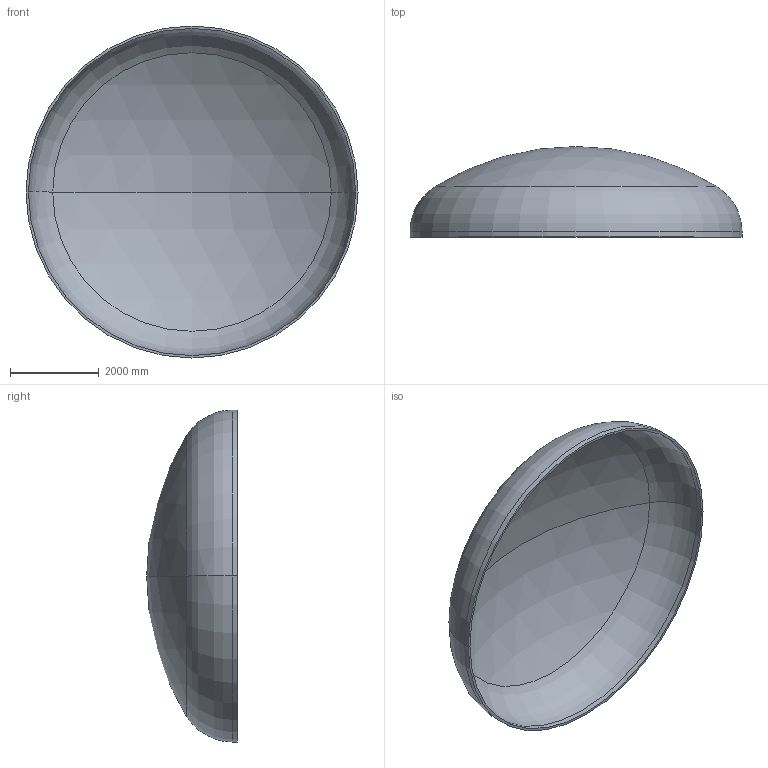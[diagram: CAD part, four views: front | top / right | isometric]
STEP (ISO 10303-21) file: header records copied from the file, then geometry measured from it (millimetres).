
FILE_DESCRIPTION (( 'STEP AP203' ), '1' );
FILE_NAME ('DIN 28013 Korbbogenform_-_Boden DIN 28013 - 7500 x 120 - I - s=54.step', '2016-07-04T10:54:50', ( '' ), ( '' ), 'SwSTEP 2.0', 'SolidWorks 2013', '' );
FILE_SCHEMA (( 'CONFIG_CONTROL_DESIGN' ));
Length unit declared in the file: millimetre
Products named in the file (1): DIN 28013 Korbbogenform_-_Boden DIN 28013 - 7500 x 120 - I - s=54
Bounding box: 7500 x 2048.79 x 7500 mm (x, y, z)
Volume: 3424399441.1 mm3; surface area: 128098850.7 mm2
Topology: 1 solids, 1 shells, 13 faces, 24 edges, 14 vertices
Faces by surface type: torus 4, cylinder 4, sphere 4, plane 1
Entity records: 407 total; most frequent: DIRECTION 72, CARTESIAN_POINT 52, ORIENTED_EDGE 48, AXIS2_PLACEMENT_3D 34, EDGE_CURVE 24, CIRCLE 20, EDGE_LOOP 14, VERTEX_POINT 14
